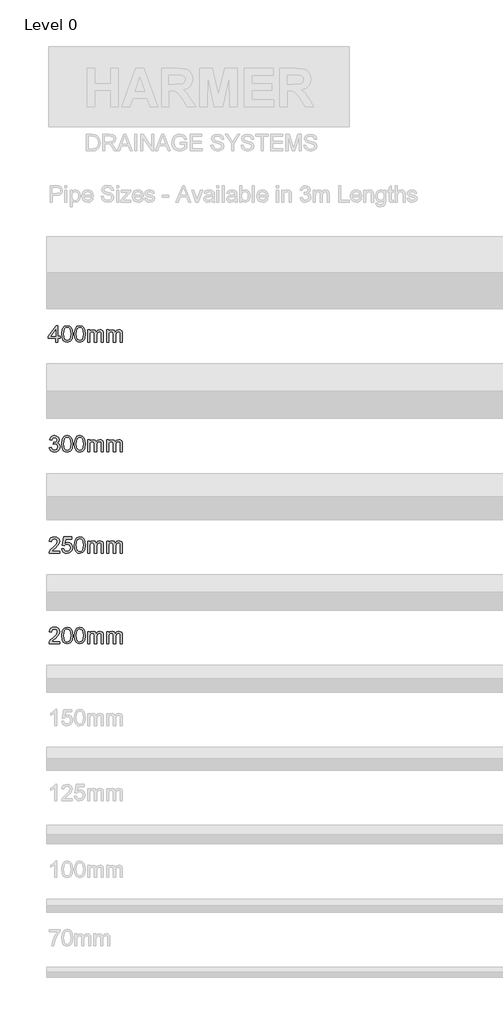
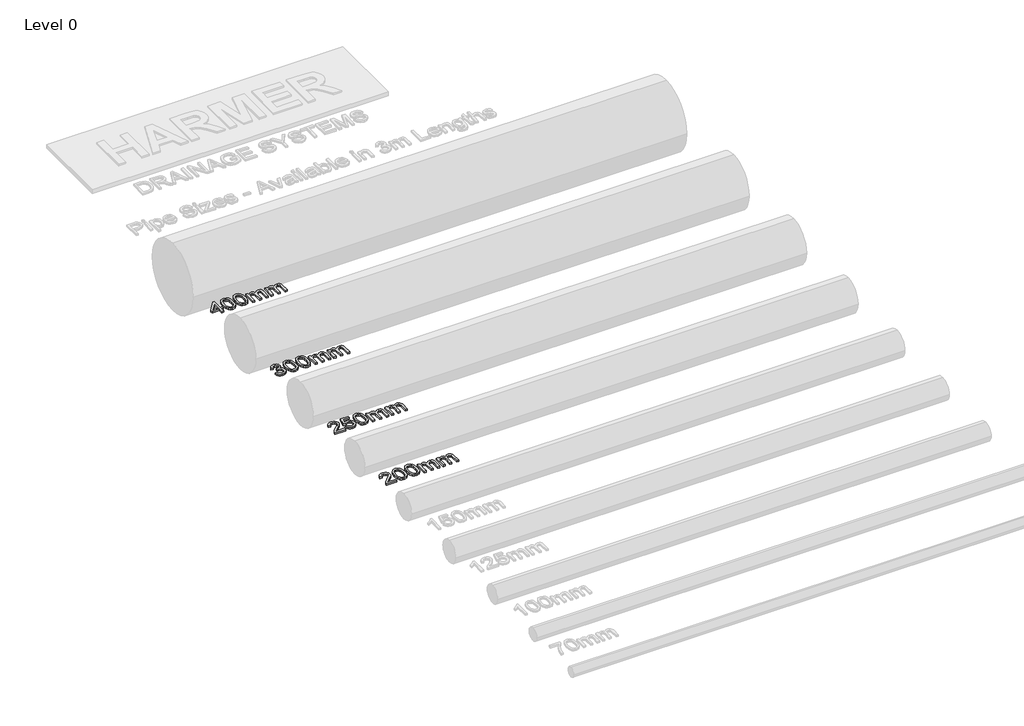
# One storey, part 2 of 3: 4 proxies.
"""IFC4 building model written with IfcOpenShell, lengths in millimetres."""

from ifc_helpers import new_model, si_unit, origin, origin_with_axes, place, context, project, spatial, polyline, outline, extrude, element, save

model = new_model("IFC4")

# Units and contexts
model_context = context("Model", 3, world=origin())
ifc_project = project(units=[si_unit("LENGTHUNIT", "METRE", prefix="MILLI")], contexts=[model_context])

# Site, building, storey
site = spatial("IfcSite", under=ifc_project)
building = spatial("IfcBuilding", under=site)
storey = spatial("IfcBuildingStorey", under=building, Name="Level 0", Elevation=0.0)

# Proxies
placement = place(None, origin())
element("IfcBuildingElementProxy", 1, Name="100mm Arial", ObjectType="100mm Arial", at=placement, inside=storey, context=model_context, shape_type="SweptSolid", body=[
    extrude(outline(polyline([(-6153.8595583, -199.9566933), (-6153.8595583, -212.2643856), (-6218.474943, -212.2643856), (-6217.1528276, -203.7788086), (-6209.676866, -190.7139048), (-6194.2682122, -176.4470779), (-6173.0182122, -155.9422702), (-6167.7057122, -141.9999625), (-6172.7177314, -130.7139048), (-6185.8066737, -126.1105394), (-6199.4485007, -130.6057317), (-6204.6287891, -143.0336163), (-6216.9364814, -141.4951548), (-6213.9527074, -129.5901067), (-6207.5013853, -120.8941933), (-6197.9190535, -115.5756836), (-6185.5422507, -113.8028471), (-6173.0753035, -115.774001), (-6163.5110007, -121.6874625), (-6157.4262651, -130.5215971), (-6155.3980199, -141.2547702), (-6157.5855199, -152.9254433), (-6164.8571545, -164.992751), (-6182.489366, -181.8557317), (-6196.6480199, -193.694674), (-6202.2009045, -199.9566933), (-6153.8595583, -199.9566933)])), origin_with_axes(), (0.0, 0.0, 1.0), 10.0),
    extrude(outline(polyline([(-6141.551866, -163.8268856), (-6137.9340776, -135.4975586), (-6127.1888853, -119.163424), (-6109.2441737, -113.8028471), (-6094.8691737, -116.975924), (-6084.9412891, -126.1225586), (-6079.1720583, -140.6898663), (-6076.9364814, -163.8268856), (-6080.5182122, -192.0360202), (-6091.2273468, -208.4062125), (-6109.2441737, -213.8028471), (-6122.0326353, -211.4590971), (-6131.7441737, -204.4278471), (-6139.099943, -187.7752029), (-6141.551866, -163.8268856)]), holes=[polyline([(-6129.2441737, -163.8028471), (-6127.801866, -183.1628231), (-6123.474943, -194.367751), (-6117.0326353, -199.7133038), (-6109.2441737, -201.4951548), (-6101.4557122, -199.7072942), (-6095.0134045, -194.3437125), (-6090.6864814, -183.132775), (-6089.2441737, -163.8028471), (-6090.6384045, -144.8785683), (-6094.8210968, -133.586501), (-6101.2513853, -127.9795298), (-6109.3884045, -126.1105394), (-6117.0927314, -127.757174), (-6123.2826353, -132.6970779), (-6127.7537891, -144.6922702), (-6129.2441737, -163.8028471)])]), origin_with_axes(), (0.0, 0.0, 1.0), 10.0),
    extrude(outline(polyline([(-6066.1672507, -163.8268856), (-6062.5494622, -135.4975586), (-6051.8042699, -119.163424), (-6033.8595583, -113.8028471), (-6019.4845583, -116.975924), (-6009.5566737, -126.1225586), (-6003.787443, -140.6898663), (-6001.551866, -163.8268856), (-6005.1335968, -192.0360202), (-6015.8427314, -208.4062125), (-6033.8595583, -213.8028471), (-6046.6480199, -211.4590971), (-6056.3595583, -204.4278471), (-6063.7153276, -187.7752029), (-6066.1672507, -163.8268856)]), holes=[polyline([(-6053.8595583, -163.8028471), (-6052.4172507, -183.1628231), (-6048.0903276, -194.367751), (-6041.6480199, -199.7133038), (-6033.8595583, -201.4951548), (-6026.0710968, -199.7072942), (-6019.6287891, -194.3437125), (-6015.301866, -183.132775), (-6013.8595583, -163.8028471), (-6015.2537891, -144.8785683), (-6019.4364814, -133.586501), (-6025.8667699, -127.9795298), (-6034.0037891, -126.1105394), (-6041.708116, -127.757174), (-6047.8980199, -132.6970779), (-6052.3691737, -144.6922702), (-6053.8595583, -163.8028471)])]), origin_with_axes(), (0.0, 0.0, 1.0), 10.0),
    extrude(outline(polyline([(-5987.7057122, -212.2643856), (-5987.7057122, -139.9566933), (-5975.3980199, -139.9566933), (-5975.3980199, -151.8557317), (-5966.9364814, -142.1081356), (-5954.8932122, -138.4182317), (-5942.5614814, -142.180251), (-5935.7826353, -152.7211163), (-5926.1792699, -141.9939529), (-5914.051866, -138.4182317), (-5904.8000632, -139.9056115), (-5897.958116, -144.367751), (-5893.7303516, -151.9248423), (-5892.3210968, -162.6970779), (-5892.3210968, -212.2643856), (-5904.6287891, -212.2643856), (-5904.6287891, -167.9855394), (-5905.770616, -157.7090971), (-5909.9052314, -152.649001), (-5916.9364814, -150.725924), (-5929.0398468, -155.6538086), (-5933.8595583, -171.4470779), (-5933.8595583, -212.2643856), (-5946.1672507, -212.2643856), (-5946.1672507, -166.6153471), (-5949.0158083, -154.6922702), (-5958.3547507, -150.725924), (-5967.4653276, -153.3701548), (-5973.5230199, -161.1105394), (-5975.3980199, -175.7980394), (-5975.3980199, -212.2643856), (-5987.7057122, -212.2643856)])), origin_with_axes(), (0.0, 0.0, 1.0), 10.0),
    extrude(outline(polyline([(-5873.8595583, -212.2643856), (-5873.8595583, -139.9566933), (-5861.551866, -139.9566933), (-5861.551866, -151.8557317), (-5853.0903276, -142.1081356), (-5841.0470583, -138.4182317), (-5828.7153276, -142.180251), (-5821.9364814, -152.7211163), (-5812.333116, -141.9939529), (-5800.2057122, -138.4182317), (-5790.9539093, -139.9056115), (-5784.1119622, -144.367751), (-5779.8841978, -151.9248423), (-5778.474943, -162.6970779), (-5778.474943, -212.2643856), (-5790.7826353, -212.2643856), (-5790.7826353, -167.9855394), (-5791.9244622, -157.7090971), (-5796.0590776, -152.649001), (-5803.0903276, -150.725924), (-5815.193693, -155.6538086), (-5820.0134045, -171.4470779), (-5820.0134045, -212.2643856), (-5832.3210968, -212.2643856), (-5832.3210968, -166.6153471), (-5835.1696545, -154.6922702), (-5844.5085968, -150.725924), (-5853.6191737, -153.3701548), (-5859.676866, -161.1105394), (-5861.551866, -175.7980394), (-5861.551866, -212.2643856), (-5873.8595583, -212.2643856)])), origin_with_axes(), (0.0, 0.0, 1.0), 10.0),
])
element("IfcBuildingElementProxy", 2, Name="100mm Arial", ObjectType="100mm Arial", at=placement, inside=storey, context=model_context, shape_type="SweptSolid", body=[
    extrude(outline(polyline([(-6153.8595583, 342.0433067), (-6153.8595583, 329.7356144), (-6218.474943, 329.7356144), (-6217.1528276, 338.2211914), (-6209.676866, 351.2860952), (-6194.2682122, 365.5529221), (-6173.0182122, 386.0577298), (-6167.7057122, 400.0000375), (-6172.7177314, 411.2860952), (-6185.8066737, 415.8894606), (-6199.4485007, 411.3942683), (-6204.6287891, 398.9663837), (-6216.9364814, 400.5048452), (-6213.9527074, 412.4098933), (-6207.5013853, 421.1058067), (-6197.9190535, 426.4243164), (-6185.5422507, 428.1971529), (-6173.0753035, 426.225999), (-6163.5110007, 420.3125375), (-6157.4262651, 411.4784029), (-6155.3980199, 400.7452298), (-6157.5855199, 389.0745567), (-6164.8571545, 377.007249), (-6182.489366, 360.1442683), (-6196.6480199, 348.305326), (-6202.2009045, 342.0433067), (-6153.8595583, 342.0433067)])), origin_with_axes(), (0.0, 0.0, 1.0), 10.0),
    extrude(outline(polyline([(-6141.551866, 355.8894606), (-6129.2441737, 357.4279221), (-6123.0422507, 344.7476337), (-6110.1816737, 340.5048452), (-6101.3595583, 341.9802058), (-6094.7489814, 346.4062875), (-6090.6203757, 353.2722731), (-6089.2441737, 362.0673452), (-6094.4004237, 376.6827298), (-6100.8757843, 380.7031625), (-6109.989366, 382.0433067), (-6120.7946545, 379.9038837), (-6127.7057122, 374.350999), (-6140.0134045, 375.8894606), (-6129.2441737, 426.6586914), (-6081.551866, 426.6586914), (-6081.551866, 414.350999), (-6119.2922507, 414.350999), (-6124.5566737, 387.2356144), (-6115.7646064, 392.5721529), (-6106.551866, 394.350999), (-6095.052467, 392.1454702), (-6085.506193, 385.5288837), (-6079.0789093, 375.444749), (-6076.9364814, 362.836576), (-6078.865568, 350.5288837), (-6084.6528276, 340.0000375), (-6095.7345583, 331.147874), (-6110.2297507, 328.1971529), (-6122.318092, 330.0931865), (-6131.9485007, 335.7812875), (-6138.5500632, 344.6003981), (-6141.551866, 355.8894606)])), origin_with_axes(), (0.0, 0.0, 1.0), 10.0),
    extrude(outline(polyline([(-6066.1672507, 378.1731144), (-6062.5494622, 406.5024414), (-6051.8042699, 422.836576), (-6033.8595583, 428.1971529), (-6019.4845583, 425.024076), (-6009.5566737, 415.8774414), (-6003.787443, 401.3101337), (-6001.551866, 378.1731144), (-6005.1335968, 349.9639798), (-6015.8427314, 333.5937875), (-6033.8595583, 328.1971529), (-6046.6480199, 330.5409029), (-6056.3595583, 337.5721529), (-6063.7153276, 354.2247971), (-6066.1672507, 378.1731144)]), holes=[polyline([(-6053.8595583, 378.1971529), (-6052.4172507, 358.8371769), (-6048.0903276, 347.632249), (-6041.6480199, 342.2866962), (-6033.8595583, 340.5048452), (-6026.0710968, 342.2927058), (-6019.6287891, 347.6562875), (-6015.301866, 358.867225), (-6013.8595583, 378.1971529), (-6015.2537891, 397.1214317), (-6019.4364814, 408.413499), (-6025.8667699, 414.0204702), (-6034.0037891, 415.8894606), (-6041.708116, 414.242826), (-6047.8980199, 409.3029221), (-6052.3691737, 397.3077298), (-6053.8595583, 378.1971529)])]), origin_with_axes(), (0.0, 0.0, 1.0), 10.0),
    extrude(outline(polyline([(-5987.7057122, 329.7356144), (-5987.7057122, 402.0433067), (-5975.3980199, 402.0433067), (-5975.3980199, 390.1442683), (-5966.9364814, 399.8918644), (-5954.8932122, 403.5817683), (-5942.5614814, 399.819749), (-5935.7826353, 389.2788837), (-5926.1792699, 400.0060471), (-5914.051866, 403.5817683), (-5904.8000632, 402.0943885), (-5897.958116, 397.632249), (-5893.7303516, 390.0751577), (-5892.3210968, 379.3029221), (-5892.3210968, 329.7356144), (-5904.6287891, 329.7356144), (-5904.6287891, 374.0144606), (-5905.770616, 384.2909029), (-5909.9052314, 389.350999), (-5916.9364814, 391.274076), (-5929.0398468, 386.3461914), (-5933.8595583, 370.5529221), (-5933.8595583, 329.7356144), (-5946.1672507, 329.7356144), (-5946.1672507, 375.3846529), (-5949.0158083, 387.3077298), (-5958.3547507, 391.274076), (-5967.4653276, 388.6298452), (-5973.5230199, 380.8894606), (-5975.3980199, 366.2019606), (-5975.3980199, 329.7356144), (-5987.7057122, 329.7356144)])), origin_with_axes(), (0.0, 0.0, 1.0), 10.0),
    extrude(outline(polyline([(-5873.8595583, 329.7356144), (-5873.8595583, 402.0433067), (-5861.551866, 402.0433067), (-5861.551866, 390.1442683), (-5853.0903276, 399.8918644), (-5841.0470583, 403.5817683), (-5828.7153276, 399.819749), (-5821.9364814, 389.2788837), (-5812.333116, 400.0060471), (-5800.2057122, 403.5817683), (-5790.9539093, 402.0943885), (-5784.1119622, 397.632249), (-5779.8841978, 390.0751577), (-5778.474943, 379.3029221), (-5778.474943, 329.7356144), (-5790.7826353, 329.7356144), (-5790.7826353, 374.0144606), (-5791.9244622, 384.2909029), (-5796.0590776, 389.350999), (-5803.0903276, 391.274076), (-5815.193693, 386.3461914), (-5820.0134045, 370.5529221), (-5820.0134045, 329.7356144), (-5832.3210968, 329.7356144), (-5832.3210968, 375.3846529), (-5835.1696545, 387.3077298), (-5844.5085968, 391.274076), (-5853.6191737, 388.6298452), (-5859.676866, 380.8894606), (-5861.551866, 366.2019606), (-5861.551866, 329.7356144), (-5873.8595583, 329.7356144)])), origin_with_axes(), (0.0, 0.0, 1.0), 10.0),
])
element("IfcBuildingElementProxy", 3, Name="100mm Arial", ObjectType="100mm Arial", at=placement, inside=storey, context=model_context, shape_type="SweptSolid", body=[
    extrude(outline(polyline([(-6216.9364814, 962.3894606), (-6204.6287891, 963.9279221), (-6197.8379237, 950.9711914), (-6185.1335968, 947.0048452), (-6176.6960968, 948.3690279), (-6170.1816737, 952.461576), (-6164.6287891, 965.9711914), (-6170.1335968, 978.6995567), (-6184.1239814, 983.7356144), (-6192.7537891, 982.3894606), (-6191.3835968, 994.6971529), (-6189.412443, 994.5529221), (-6175.4460968, 998.086576), (-6170.7946545, 1002.569749), (-6169.2441737, 1008.9519606), (-6173.739366, 1018.5793644), (-6185.3259045, 1022.3894606), (-6197.0566737, 1018.5433067), (-6203.0903276, 1007.0048452), (-6215.3980199, 1008.5433067), (-6211.7742218, 1019.5949894), (-6205.3259045, 1027.8461914), (-6196.5037891, 1032.9844125), (-6185.7585968, 1034.6971529), (-6170.9148468, 1031.319749), (-6160.5302314, 1022.0889798), (-6156.9364814, 1009.6731144), (-6160.349943, 998.3269606), (-6170.4460968, 990.1779221), (-6157.0326353, 981.7644606), (-6152.3210968, 965.7548452), (-6154.676866, 953.7596529), (-6161.7441737, 943.7356144), (-6172.411241, 936.9567683), (-6185.5662891, 934.6971529), (-6197.4653276, 936.6262394), (-6207.1528276, 942.413499), (-6213.8896064, 951.2656625), (-6216.9364814, 962.3894606)])), origin_with_axes(), (0.0, 0.0, 1.0), 10.0),
    extrude(outline(polyline([(-6141.551866, 984.6731144), (-6137.9340776, 1013.0024414), (-6127.1888853, 1029.336576), (-6109.2441737, 1034.6971529), (-6094.8691737, 1031.524076), (-6084.9412891, 1022.3774414), (-6079.1720583, 1007.8101337), (-6076.9364814, 984.6731144), (-6080.5182122, 956.4639798), (-6091.2273468, 940.0937875), (-6109.2441737, 934.6971529), (-6122.0326353, 937.0409029), (-6131.7441737, 944.0721529), (-6139.099943, 960.7247971), (-6141.551866, 984.6731144)]), holes=[polyline([(-6129.2441737, 984.6971529), (-6127.801866, 965.3371769), (-6123.474943, 954.132249), (-6117.0326353, 948.7866962), (-6109.2441737, 947.0048452), (-6101.4557122, 948.7927058), (-6095.0134045, 954.1562875), (-6090.6864814, 965.367225), (-6089.2441737, 984.6971529), (-6090.6384045, 1003.6214317), (-6094.8210968, 1014.913499), (-6101.2513853, 1020.5204702), (-6109.3884045, 1022.3894606), (-6117.0927314, 1020.742826), (-6123.2826353, 1015.8029221), (-6127.7537891, 1003.8077298), (-6129.2441737, 984.6971529)])]), origin_with_axes(), (0.0, 0.0, 1.0), 10.0),
    extrude(outline(polyline([(-6066.1672507, 984.6731144), (-6062.5494622, 1013.0024414), (-6051.8042699, 1029.336576), (-6033.8595583, 1034.6971529), (-6019.4845583, 1031.524076), (-6009.5566737, 1022.3774414), (-6003.787443, 1007.8101337), (-6001.551866, 984.6731144), (-6005.1335968, 956.4639798), (-6015.8427314, 940.0937875), (-6033.8595583, 934.6971529), (-6046.6480199, 937.0409029), (-6056.3595583, 944.0721529), (-6063.7153276, 960.7247971), (-6066.1672507, 984.6731144)]), holes=[polyline([(-6053.8595583, 984.6971529), (-6052.4172507, 965.3371769), (-6048.0903276, 954.132249), (-6041.6480199, 948.7866962), (-6033.8595583, 947.0048452), (-6026.0710968, 948.7927058), (-6019.6287891, 954.1562875), (-6015.301866, 965.367225), (-6013.8595583, 984.6971529), (-6015.2537891, 1003.6214317), (-6019.4364814, 1014.913499), (-6025.8667699, 1020.5204702), (-6034.0037891, 1022.3894606), (-6041.708116, 1020.742826), (-6047.8980199, 1015.8029221), (-6052.3691737, 1003.8077298), (-6053.8595583, 984.6971529)])]), origin_with_axes(), (0.0, 0.0, 1.0), 10.0),
    extrude(outline(polyline([(-5987.7057122, 936.2356144), (-5987.7057122, 1008.5433067), (-5975.3980199, 1008.5433067), (-5975.3980199, 996.6442683), (-5966.9364814, 1006.3918644), (-5954.8932122, 1010.0817683), (-5942.5614814, 1006.319749), (-5935.7826353, 995.7788837), (-5926.1792699, 1006.5060471), (-5914.051866, 1010.0817683), (-5904.8000632, 1008.5943885), (-5897.958116, 1004.132249), (-5893.7303516, 996.5751577), (-5892.3210968, 985.8029221), (-5892.3210968, 936.2356144), (-5904.6287891, 936.2356144), (-5904.6287891, 980.5144606), (-5905.770616, 990.7909029), (-5909.9052314, 995.850999), (-5916.9364814, 997.774076), (-5929.0398468, 992.8461914), (-5933.8595583, 977.0529221), (-5933.8595583, 936.2356144), (-5946.1672507, 936.2356144), (-5946.1672507, 981.8846529), (-5949.0158083, 993.8077298), (-5958.3547507, 997.774076), (-5967.4653276, 995.1298452), (-5973.5230199, 987.3894606), (-5975.3980199, 972.7019606), (-5975.3980199, 936.2356144), (-5987.7057122, 936.2356144)])), origin_with_axes(), (0.0, 0.0, 1.0), 10.0),
    extrude(outline(polyline([(-5873.8595583, 936.2356144), (-5873.8595583, 1008.5433067), (-5861.551866, 1008.5433067), (-5861.551866, 996.6442683), (-5853.0903276, 1006.3918644), (-5841.0470583, 1010.0817683), (-5828.7153276, 1006.319749), (-5821.9364814, 995.7788837), (-5812.333116, 1006.5060471), (-5800.2057122, 1010.0817683), (-5790.9539093, 1008.5943885), (-5784.1119622, 1004.132249), (-5779.8841978, 996.5751577), (-5778.474943, 985.8029221), (-5778.474943, 936.2356144), (-5790.7826353, 936.2356144), (-5790.7826353, 980.5144606), (-5791.9244622, 990.7909029), (-5796.0590776, 995.850999), (-5803.0903276, 997.774076), (-5815.193693, 992.8461914), (-5820.0134045, 977.0529221), (-5820.0134045, 936.2356144), (-5832.3210968, 936.2356144), (-5832.3210968, 981.8846529), (-5835.1696545, 993.8077298), (-5844.5085968, 997.774076), (-5853.6191737, 995.1298452), (-5859.676866, 987.3894606), (-5861.551866, 972.7019606), (-5861.551866, 936.2356144), (-5873.8595583, 936.2356144)])), origin_with_axes(), (0.0, 0.0, 1.0), 10.0),
])
element("IfcBuildingElementProxy", 4, Name="100mm Arial", ObjectType="100mm Arial", at=placement, inside=storey, context=model_context, shape_type="SweptSolid", body=[
    extrude(outline(polyline([(-6176.9364814, 1594.7356144), (-6176.9364814, 1617.8125375), (-6221.551866, 1617.8125375), (-6221.551866, 1630.1202298), (-6173.8595583, 1691.6586914), (-6164.6287891, 1691.6586914), (-6164.6287891, 1630.1202298), (-6152.3210968, 1630.1202298), (-6152.3210968, 1617.8125375), (-6164.6287891, 1617.8125375), (-6164.6287891, 1594.7356144), (-6176.9364814, 1594.7356144)]), holes=[polyline([(-6176.9364814, 1630.1202298), (-6176.9364814, 1668.149076), (-6206.4076353, 1630.1202298), (-6176.9364814, 1630.1202298)])]), origin_with_axes(), (0.0, 0.0, 1.0), 10.0),
    extrude(outline(polyline([(-6141.551866, 1643.1731144), (-6137.9340776, 1671.5024414), (-6127.1888853, 1687.836576), (-6109.2441737, 1693.1971529), (-6094.8691737, 1690.024076), (-6084.9412891, 1680.8774414), (-6079.1720583, 1666.3101337), (-6076.9364814, 1643.1731144), (-6080.5182122, 1614.9639798), (-6091.2273468, 1598.5937875), (-6109.2441737, 1593.1971529), (-6122.0326353, 1595.5409029), (-6131.7441737, 1602.5721529), (-6139.099943, 1619.2247971), (-6141.551866, 1643.1731144)]), holes=[polyline([(-6129.2441737, 1643.1971529), (-6127.801866, 1623.8371769), (-6123.474943, 1612.632249), (-6117.0326353, 1607.2866962), (-6109.2441737, 1605.5048452), (-6101.4557122, 1607.2927058), (-6095.0134045, 1612.6562875), (-6090.6864814, 1623.867225), (-6089.2441737, 1643.1971529), (-6090.6384045, 1662.1214317), (-6094.8210968, 1673.413499), (-6101.2513853, 1679.0204702), (-6109.3884045, 1680.8894606), (-6117.0927314, 1679.242826), (-6123.2826353, 1674.3029221), (-6127.7537891, 1662.3077298), (-6129.2441737, 1643.1971529)])]), origin_with_axes(), (0.0, 0.0, 1.0), 10.0),
    extrude(outline(polyline([(-6066.1672507, 1643.1731144), (-6062.5494622, 1671.5024414), (-6051.8042699, 1687.836576), (-6033.8595583, 1693.1971529), (-6019.4845583, 1690.024076), (-6009.5566737, 1680.8774414), (-6003.787443, 1666.3101337), (-6001.551866, 1643.1731144), (-6005.1335968, 1614.9639798), (-6015.8427314, 1598.5937875), (-6033.8595583, 1593.1971529), (-6046.6480199, 1595.5409029), (-6056.3595583, 1602.5721529), (-6063.7153276, 1619.2247971), (-6066.1672507, 1643.1731144)]), holes=[polyline([(-6053.8595583, 1643.1971529), (-6052.4172507, 1623.8371769), (-6048.0903276, 1612.632249), (-6041.6480199, 1607.2866962), (-6033.8595583, 1605.5048452), (-6026.0710968, 1607.2927058), (-6019.6287891, 1612.6562875), (-6015.301866, 1623.867225), (-6013.8595583, 1643.1971529), (-6015.2537891, 1662.1214317), (-6019.4364814, 1673.413499), (-6025.8667699, 1679.0204702), (-6034.0037891, 1680.8894606), (-6041.708116, 1679.242826), (-6047.8980199, 1674.3029221), (-6052.3691737, 1662.3077298), (-6053.8595583, 1643.1971529)])]), origin_with_axes(), (0.0, 0.0, 1.0), 10.0),
    extrude(outline(polyline([(-5987.7057122, 1594.7356144), (-5987.7057122, 1667.0433067), (-5975.3980199, 1667.0433067), (-5975.3980199, 1655.1442683), (-5966.9364814, 1664.8918644), (-5954.8932122, 1668.5817683), (-5942.5614814, 1664.819749), (-5935.7826353, 1654.2788837), (-5926.1792699, 1665.0060471), (-5914.051866, 1668.5817683), (-5904.8000632, 1667.0943885), (-5897.958116, 1662.632249), (-5893.7303516, 1655.0751577), (-5892.3210968, 1644.3029221), (-5892.3210968, 1594.7356144), (-5904.6287891, 1594.7356144), (-5904.6287891, 1639.0144606), (-5905.770616, 1649.2909029), (-5909.9052314, 1654.350999), (-5916.9364814, 1656.274076), (-5929.0398468, 1651.3461914), (-5933.8595583, 1635.5529221), (-5933.8595583, 1594.7356144), (-5946.1672507, 1594.7356144), (-5946.1672507, 1640.3846529), (-5949.0158083, 1652.3077298), (-5958.3547507, 1656.274076), (-5967.4653276, 1653.6298452), (-5973.5230199, 1645.8894606), (-5975.3980199, 1631.2019606), (-5975.3980199, 1594.7356144), (-5987.7057122, 1594.7356144)])), origin_with_axes(), (0.0, 0.0, 1.0), 10.0),
    extrude(outline(polyline([(-5873.8595583, 1594.7356144), (-5873.8595583, 1667.0433067), (-5861.551866, 1667.0433067), (-5861.551866, 1655.1442683), (-5853.0903276, 1664.8918644), (-5841.0470583, 1668.5817683), (-5828.7153276, 1664.819749), (-5821.9364814, 1654.2788837), (-5812.333116, 1665.0060471), (-5800.2057122, 1668.5817683), (-5790.9539093, 1667.0943885), (-5784.1119622, 1662.632249), (-5779.8841978, 1655.0751577), (-5778.474943, 1644.3029221), (-5778.474943, 1594.7356144), (-5790.7826353, 1594.7356144), (-5790.7826353, 1639.0144606), (-5791.9244622, 1649.2909029), (-5796.0590776, 1654.350999), (-5803.0903276, 1656.274076), (-5815.193693, 1651.3461914), (-5820.0134045, 1635.5529221), (-5820.0134045, 1594.7356144), (-5832.3210968, 1594.7356144), (-5832.3210968, 1640.3846529), (-5835.1696545, 1652.3077298), (-5844.5085968, 1656.274076), (-5853.6191737, 1653.6298452), (-5859.676866, 1645.8894606), (-5861.551866, 1631.2019606), (-5861.551866, 1594.7356144), (-5873.8595583, 1594.7356144)])), origin_with_axes(), (0.0, 0.0, 1.0), 10.0),
])

save(model, "model.ifc")
